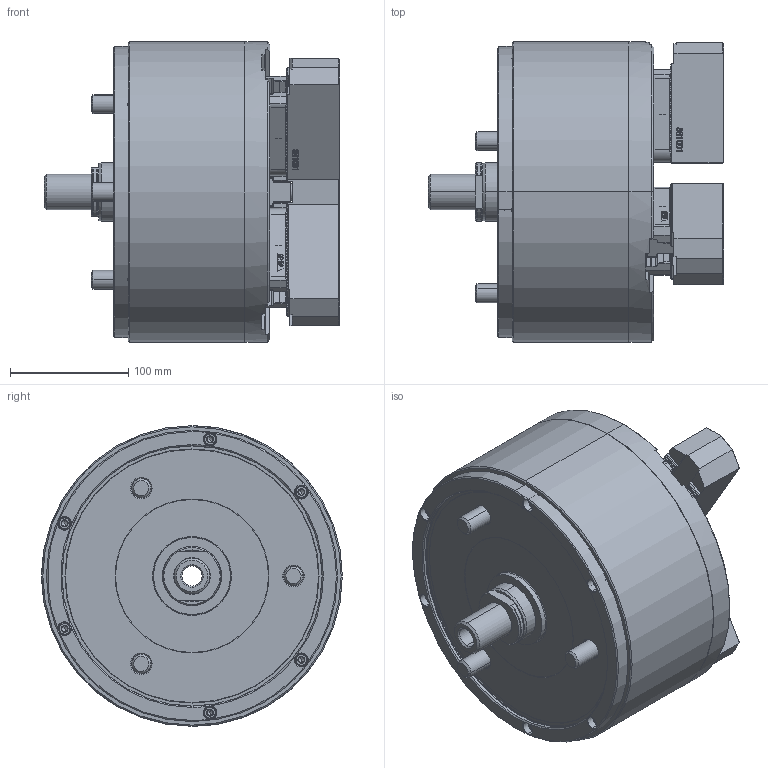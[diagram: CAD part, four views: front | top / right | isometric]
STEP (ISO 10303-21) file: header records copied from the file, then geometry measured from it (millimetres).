
FILE_DESCRIPTION (( 'STEP AP214' ), '1' );
FILE_NAME ('DL210_UC_ID.STEP', '2019-11-12T07:13:04', ( '' ), ( '' ), 'SwSTEP 2.0', 'SolidWorks 2017', '' );
FILE_SCHEMA (( 'AUTOMOTIVE_DESIGN' ));
Length unit declared in the file: millimetre
Products named in the file (5): 結合_ID; 0030114040; 61P458879; 61P390757; DL210_UC_ID
Assembly tree (13 placements, depth 2):
  DL210_UC_ID
    61P390757  x3
    61P458879  x3
    0030114040  x6
    結合_ID
Bounding box: 249.49 x 254 x 254 mm (x, y, z)
Volume: 7094616 mm3; surface area: 453491.9 mm2
Topology: 13 solids, 13 shells, 5689 faces, 15596 edges, 10144 vertices
Faces by surface type: plane 3811, bspline 733, cylinder 704, cone 405, torus 36
Entity records: 161146 total; most frequent: CARTESIAN_POINT 53834, ORIENTED_EDGE 24340, DIRECTION 18855, EDGE_CURVE 12170, LINE 8801, VECTOR 8801, VERTEX_POINT 7943, AXIS2_PLACEMENT_3D 5027
